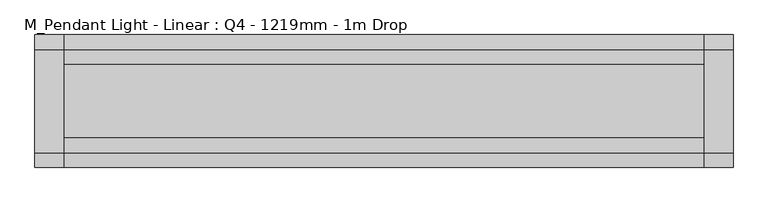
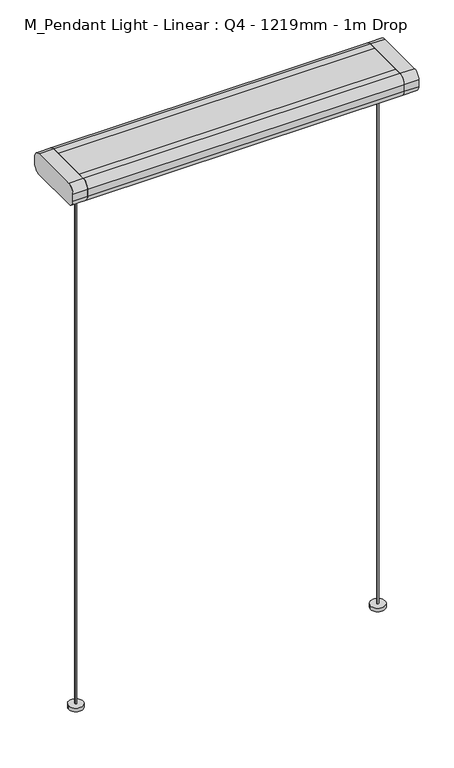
"""IFC4 building model written with IfcOpenShell, lengths in millimetres: light fixture geometry, M_Pendant Light - Linear : Q4 - 1219mm - 1m Drop."""

from ifc_helpers import new_model, si_unit, point, frame, frame_2d, origin, origin_with_axes, place, context, project, spatial, polyline, circle_curve, trimmed, segment, composite_curve, outline, extrude, source, transform, mapped, element, save


def m_pendant_light_linear_q4_1219mm_1m_drop_4b855121(model_context):
    return source(origin(), model_context, "Body", "SweptSolid", [
        extrude(outline(composite_curve([segment(polyline([(114.3, 1974.6), (114.3, 1949.2)]), True, "CONTINUOUS"), segment(trimmed(circle_curve(frame_2d((88.9, 1949.2)), 25.4), [point((114.3, 1949.2))], [point((88.9, 1923.8))], False, "CARTESIAN"), True, "CONTINUOUS"), segment(polyline([(88.9, 1923.8), (-88.9, 1923.8)]), True, "CONTINUOUS"), segment(trimmed(circle_curve(frame_2d((-88.9, 1949.2)), 25.4), [point((-88.9, 1923.8))], [point((-114.3, 1949.2))], False, "CARTESIAN"), True, "CONTINUOUS"), segment(polyline([(-114.3, 1949.2), (-114.3, 1974.6)]), True, "CONTINUOUS"), segment(trimmed(circle_curve(frame_2d((-88.9, 1974.6)), 25.4), [point((-114.3, 1974.6))], [point((-88.9, 2000.0))], False, "CARTESIAN"), True, "CONTINUOUS"), segment(polyline([(-88.9, 2000.0), (-63.5, 2000.0), (-63.5, 1974.6), (63.5, 1974.6), (63.5, 2000.0), (88.9, 2000.0)]), True, "CONTINUOUS"), segment(trimmed(circle_curve(frame_2d((88.9, 1974.6)), 25.4), [point((88.9, 2000.0))], [point((114.3, 1974.6))], False, "CARTESIAN"), True, "CONTINUOUS")], self_intersect=False)), frame((-549.2, 0.0, 0.0), z_axis=(1.0, 0.0, 0.0), x_axis=(0.0, 1.0, 0.0)), (0.0, 0.0, 1.0), 1098.4),
        extrude(outline(polyline([(549.2, 63.5), (549.2, -63.5), (-549.2, -63.5), (-549.2, 63.5), (549.2, 63.5)])), frame((0.0, 0.0, 1987.3), z_axis=(0.0, 0.0, 1.0), x_axis=(1.0, 0.0, 0.0)), (0.0, 0.0, 1.0), 12.7),
        extrude(outline(composite_curve([segment(trimmed(circle_curve(frame_2d((523.8, 0.0)), 25.4), [point((498.4, 0.0))], [point((549.2, 0.0))], False, "CARTESIAN"), True, "CONTINUOUS"), segment(trimmed(circle_curve(frame_2d((523.8, 0.0)), 25.4), [point((549.2, 0.0))], [point((498.4, 0.0))], False, "CARTESIAN"), True, "CONTINUOUS")], self_intersect=False)), origin_with_axes(), (0.0, 0.0, 1.0), 12.7),
        extrude(outline(composite_curve([segment(trimmed(circle_curve(frame_2d((-523.8, 0.0)), 25.4), [point((-549.2, 0.0))], [point((-498.4, 0.0))], False, "CARTESIAN"), True, "CONTINUOUS"), segment(trimmed(circle_curve(frame_2d((-523.8, 0.0)), 25.4), [point((-498.4, 0.0))], [point((-549.2, 0.0))], False, "CARTESIAN"), True, "CONTINUOUS")], self_intersect=False)), origin_with_axes(), (0.0, 0.0, 1.0), 12.7),
        extrude(outline(composite_curve([segment(trimmed(circle_curve(frame_2d((-88.9, 1974.6)), 25.4), [point((-114.3, 1974.6))], [point((-88.9, 2000.0))], False, "CARTESIAN"), True, "CONTINUOUS"), segment(polyline([(-88.9, 2000.0), (88.9, 2000.0)]), True, "CONTINUOUS"), segment(trimmed(circle_curve(frame_2d((88.9, 1974.6)), 25.4), [point((88.9, 2000.0))], [point((114.3, 1974.6))], False, "CARTESIAN"), True, "CONTINUOUS"), segment(polyline([(114.3, 1974.6), (114.3, 1949.2)]), True, "CONTINUOUS"), segment(trimmed(circle_curve(frame_2d((88.9, 1949.2)), 25.4), [point((114.3, 1949.2))], [point((88.9, 1923.8))], False, "CARTESIAN"), True, "CONTINUOUS"), segment(polyline([(88.9, 1923.8), (-88.9, 1923.8)]), True, "CONTINUOUS"), segment(trimmed(circle_curve(frame_2d((-88.9, 1949.2)), 25.4), [point((-88.9, 1923.8))], [point((-114.3, 1949.2))], False, "CARTESIAN"), True, "CONTINUOUS"), segment(polyline([(-114.3, 1949.2), (-114.3, 1974.6)]), True, "CONTINUOUS")], self_intersect=False)), frame((549.2, 0.0, 0.0), z_axis=(1.0, 0.0, 0.0), x_axis=(0.0, 1.0, 0.0)), (0.0, 0.0, 1.0), 50.8),
        extrude(outline(composite_curve([segment(polyline([(114.3, 1974.6), (114.3, 1949.2)]), True, "CONTINUOUS"), segment(trimmed(circle_curve(frame_2d((88.9, 1949.2)), 25.4), [point((114.3, 1949.2))], [point((88.9, 1923.8))], False, "CARTESIAN"), True, "CONTINUOUS"), segment(polyline([(88.9, 1923.8), (-88.9, 1923.8)]), True, "CONTINUOUS"), segment(trimmed(circle_curve(frame_2d((-88.9, 1949.2)), 25.4), [point((-88.9, 1923.8))], [point((-114.3, 1949.2))], False, "CARTESIAN"), True, "CONTINUOUS"), segment(polyline([(-114.3, 1949.2), (-114.3, 1974.6)]), True, "CONTINUOUS"), segment(trimmed(circle_curve(frame_2d((-88.9, 1974.6)), 25.4), [point((-114.3, 1974.6))], [point((-88.9, 2000.0))], False, "CARTESIAN"), True, "CONTINUOUS"), segment(polyline([(-88.9, 2000.0), (88.9, 2000.0)]), True, "CONTINUOUS"), segment(trimmed(circle_curve(frame_2d((88.9, 1974.6)), 25.4), [point((88.9, 2000.0))], [point((114.3, 1974.6))], False, "CARTESIAN"), True, "CONTINUOUS")], self_intersect=False)), frame((-600.0, 0.0, 0.0), z_axis=(1.0, 0.0, 0.0), x_axis=(0.0, 1.0, 0.0)), (0.0, 0.0, 1.0), 50.8),
        extrude(outline(composite_curve([segment(trimmed(circle_curve(frame_2d((523.8, 0.0)), 3.1340604), [point((520.6659396, 0.0))], [point((526.9340604, 0.0))], False, "CARTESIAN"), True, "CONTINUOUS"), segment(trimmed(circle_curve(frame_2d((523.8, 0.0)), 3.1340604), [point((526.9340604, 0.0))], [point((520.6659396, 0.0))], False, "CARTESIAN"), True, "CONTINUOUS")], self_intersect=False)), origin_with_axes(), (0.0, 0.0, 1.0), 1923.8),
        extrude(outline(composite_curve([segment(trimmed(circle_curve(frame_2d((-523.8, 0.0)), 3.175), [point((-526.975, 0.0))], [point((-520.625, 0.0))], False, "CARTESIAN"), True, "CONTINUOUS"), segment(trimmed(circle_curve(frame_2d((-523.8, 0.0)), 3.175), [point((-520.625, 0.0))], [point((-526.975, 0.0))], False, "CARTESIAN"), True, "CONTINUOUS")], self_intersect=False)), origin_with_axes(), (0.0, 0.0, 1.0), 1923.8),
    ])


if __name__ == "__main__":
    model = new_model("IFC4")
    model_context = context("Model", 3, world=origin())
    ifc_project = project(units=[si_unit("LENGTHUNIT", "METRE", prefix="MILLI")], contexts=[model_context])
    site = spatial("IfcSite", under=ifc_project)
    building = spatial("IfcBuilding", under=site)
    placement = place(None, origin())
    m_pendant_light_linear_q4_1219mm_1m_drop_shape = m_pendant_light_linear_q4_1219mm_1m_drop_4b855121(model_context)
    element("IfcLightFixture", 1, ObjectType="M_Pendant Light - Linear : Q4 - 1219mm - 1m Drop", at=placement, inside=building, context=model_context, shape_type="MappedRepresentation", body=[
        mapped(m_pendant_light_linear_q4_1219mm_1m_drop_shape, transform((0.0, 0.0, 0.0), x_axis=(1.0, 0.0, 0.0), y_axis=(0.0, 1.0, 0.0), z_axis=(0.0, 0.0, 1.0))),
    ])
    save(model, "model.ifc")
